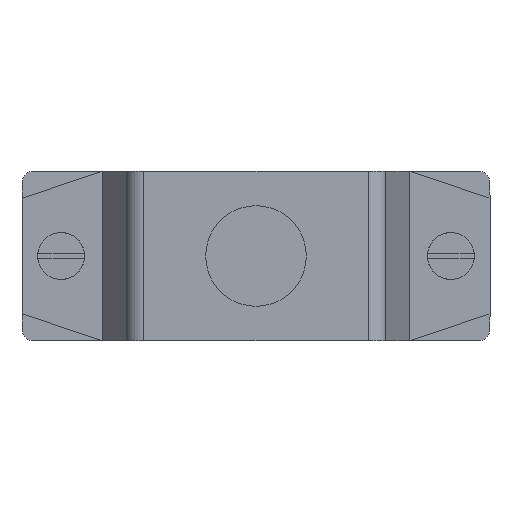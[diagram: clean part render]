
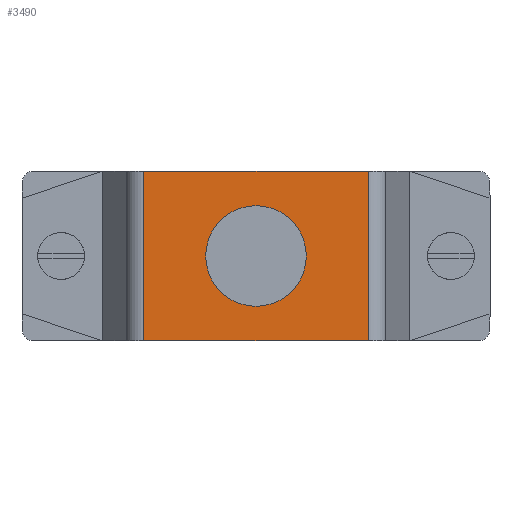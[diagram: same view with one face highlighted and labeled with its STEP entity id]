
A CAD part, front view. The second image highlights one B-rep face of the part: STEP entity #3490.
In plain terms, the highlighted planar face has unit normal (0, -1, 0).
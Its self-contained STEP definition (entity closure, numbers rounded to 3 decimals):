
#288 = ORIENTED_EDGE ( 'NONE', *, *, #7905, .T. ) ;
#290 = LINE ( 'NONE', #4624, #2400 ) ;
#554 = VERTEX_POINT ( 'NONE', #1400 ) ;
#1296 = DIRECTION ( 'NONE',  ( 0., -1., 0. ) ) ;
#1326 = CIRCLE ( 'NONE', #5668, 4.3 ) ;
#1349 = LINE ( 'NONE', #6948, #3322 ) ;
#1389 = VECTOR ( 'NONE', #4447, 1000. ) ;
#1400 = CARTESIAN_POINT ( 'NONE',  ( 9.6, -29.1, 0. ) ) ;
#1426 = DIRECTION ( 'NONE',  ( -1., 0., 0. ) ) ;
#1837 = AXIS2_PLACEMENT_3D ( 'NONE', #6736, #6245, #4279 ) ;
#1843 = DIRECTION ( 'NONE',  ( 1., 0., 0. ) ) ;
#1981 = CARTESIAN_POINT ( 'NONE',  ( -9.6, -29.1, 0. ) ) ;
#2156 = CARTESIAN_POINT ( 'NONE',  ( 0., -29.1, 11.55 ) ) ;
#2363 = CARTESIAN_POINT ( 'NONE',  ( 0., -29.1, 0. ) ) ;
#2400 = VECTOR ( 'NONE', #2814, 1000. ) ;
#2426 = LINE ( 'NONE', #2999, #3679 ) ;
#2596 = CARTESIAN_POINT ( 'NONE',  ( 9.6, -29.1, 14.5 ) ) ;
#2814 = DIRECTION ( 'NONE',  ( 0., 0., -1. ) ) ;
#2897 = ORIENTED_EDGE ( 'NONE', *, *, #5711, .F. ) ;
#2999 = CARTESIAN_POINT ( 'NONE',  ( -11.1, -29.1, 0. ) ) ;
#3169 = AXIS2_PLACEMENT_3D ( 'NONE', #2363, #7542, #6802 ) ;
#3276 = EDGE_LOOP ( 'NONE', ( #4069, #3478, #288, #7812 ) ) ;
#3322 = VECTOR ( 'NONE', #1426, 1000. ) ;
#3364 = VERTEX_POINT ( 'NONE', #2156 ) ;
#3478 = ORIENTED_EDGE ( 'NONE', *, *, #3890, .T. ) ;
#3490 = ADVANCED_FACE ( 'NONE', ( #6884, #5574 ), #7423, .T. ) ;
#3679 = VECTOR ( 'NONE', #1843, 1000. ) ;
#3715 = CARTESIAN_POINT ( 'NONE',  ( 9.6, -29.1, 14.5 ) ) ;
#3888 = CARTESIAN_POINT ( 'NONE',  ( -9.6, -29.1, 14.5 ) ) ;
#3890 = EDGE_CURVE ( 'NONE', #4315, #4854, #290, .T. ) ;
#3943 = ORIENTED_EDGE ( 'NONE', *, *, #7917, .F. ) ;
#3957 = EDGE_LOOP ( 'NONE', ( #2897, #3943 ) ) ;
#4069 = ORIENTED_EDGE ( 'NONE', *, *, #6367, .T. ) ;
#4279 = DIRECTION ( 'NONE',  ( 0., 0., -1. ) ) ;
#4315 = VERTEX_POINT ( 'NONE', #3888 ) ;
#4447 = DIRECTION ( 'NONE',  ( 0., 0., 1. ) ) ;
#4624 = CARTESIAN_POINT ( 'NONE',  ( -9.6, -29.1, 0. ) ) ;
#4854 = VERTEX_POINT ( 'NONE', #1981 ) ;
#5060 = LINE ( 'NONE', #2596, #1389 ) ;
#5323 = VERTEX_POINT ( 'NONE', #3715 ) ;
#5574 = FACE_OUTER_BOUND ( 'NONE', #3276, .T. ) ;
#5668 = AXIS2_PLACEMENT_3D ( 'NONE', #6286, #1296, #7438 ) ;
#5711 = EDGE_CURVE ( 'NONE', #3364, #6235, #1326, .T. ) ;
#6235 = VERTEX_POINT ( 'NONE', #8047 ) ;
#6245 = DIRECTION ( 'NONE',  ( 0., -1., 0. ) ) ;
#6286 = CARTESIAN_POINT ( 'NONE',  ( 0., -29.1, 7.25 ) ) ;
#6367 = EDGE_CURVE ( 'NONE', #5323, #4315, #1349, .T. ) ;
#6388 = EDGE_CURVE ( 'NONE', #554, #5323, #5060, .T. ) ;
#6736 = CARTESIAN_POINT ( 'NONE',  ( 0., -29.1, 7.25 ) ) ;
#6802 = DIRECTION ( 'NONE',  ( 0., 0., -1. ) ) ;
#6884 = FACE_BOUND ( 'NONE', #3957, .T. ) ;
#6948 = CARTESIAN_POINT ( 'NONE',  ( -11.1, -29.1, 14.5 ) ) ;
#7344 = CIRCLE ( 'NONE', #1837, 4.3 ) ;
#7423 = PLANE ( 'NONE',  #3169 ) ;
#7438 = DIRECTION ( 'NONE',  ( 0., 0., -1. ) ) ;
#7542 = DIRECTION ( 'NONE',  ( 0., -1., 0. ) ) ;
#7812 = ORIENTED_EDGE ( 'NONE', *, *, #6388, .T. ) ;
#7905 = EDGE_CURVE ( 'NONE', #4854, #554, #2426, .T. ) ;
#7917 = EDGE_CURVE ( 'NONE', #6235, #3364, #7344, .T. ) ;
#8047 = CARTESIAN_POINT ( 'NONE',  ( 0., -29.1, 2.95 ) ) ;
